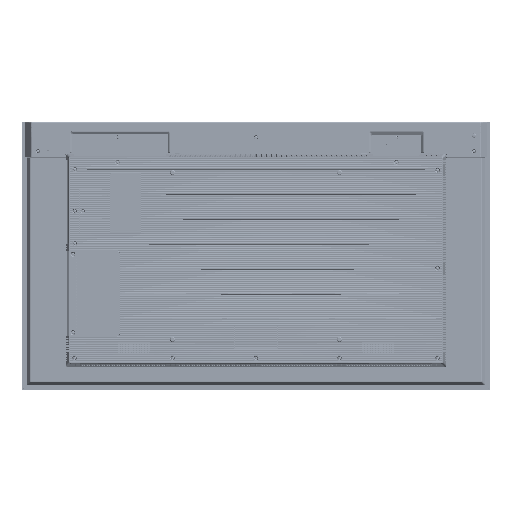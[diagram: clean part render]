
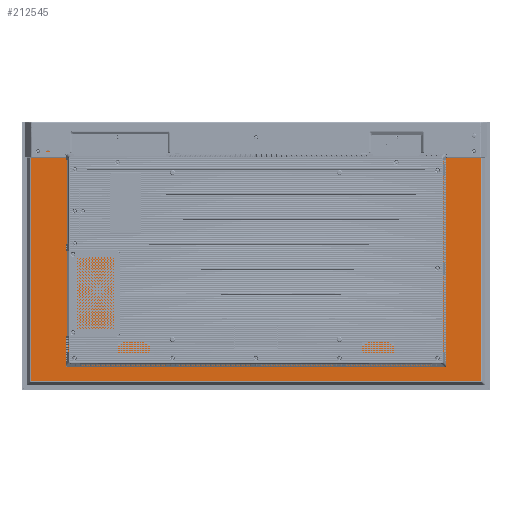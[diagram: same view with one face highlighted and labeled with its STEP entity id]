
A CAD part, front view. The second image highlights one B-rep face of the part: STEP entity #212545.
In plain terms, the highlighted planar face has unit normal (0, -1, 0).
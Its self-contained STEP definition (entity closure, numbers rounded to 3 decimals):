
#163135=ELLIPSE('',#653300,0.704,0.5);
#163136=ELLIPSE('',#653301,0.704,0.5);
#163137=ELLIPSE('',#653302,0.704,0.5);
#163138=ELLIPSE('',#653303,0.704,0.5);
#212545=ADVANCED_FACE('',(#252940,#252941),#236164,.T.);
#236164=PLANE('',#653304);
#252940=FACE_BOUND('',#257723,.T.);
#252941=FACE_BOUND('',#257724,.T.);
#257723=EDGE_LOOP('',(#290315,#290316,#290317,#290318,#290319,#290320));
#257724=EDGE_LOOP('',(#290321,#290322,#290323,#290324,#290325,#290326,#290327,
#290328));
#290315=ORIENTED_EDGE('',*,*,#476931,.T.);
#290316=ORIENTED_EDGE('',*,*,#476932,.F.);
#290317=ORIENTED_EDGE('',*,*,#476933,.F.);
#290318=ORIENTED_EDGE('',*,*,#476934,.F.);
#290319=ORIENTED_EDGE('',*,*,#476935,.T.);
#290320=ORIENTED_EDGE('',*,*,#476936,.F.);
#290321=ORIENTED_EDGE('',*,*,#476937,.T.);
#290322=ORIENTED_EDGE('',*,*,#476938,.T.);
#290323=ORIENTED_EDGE('',*,*,#476939,.T.);
#290324=ORIENTED_EDGE('',*,*,#476940,.T.);
#290325=ORIENTED_EDGE('',*,*,#476941,.T.);
#290326=ORIENTED_EDGE('',*,*,#476942,.T.);
#290327=ORIENTED_EDGE('',*,*,#476943,.T.);
#290328=ORIENTED_EDGE('',*,*,#476944,.T.);
#429624=VERTEX_POINT('',#816495);
#429625=VERTEX_POINT('',#816496);
#429626=VERTEX_POINT('',#816498);
#429627=VERTEX_POINT('',#816500);
#429628=VERTEX_POINT('',#816502);
#429629=VERTEX_POINT('',#816504);
#429630=VERTEX_POINT('',#816507);
#429631=VERTEX_POINT('',#816508);
#429632=VERTEX_POINT('',#816510);
#429633=VERTEX_POINT('',#816512);
#429634=VERTEX_POINT('',#816514);
#429635=VERTEX_POINT('',#816516);
#429636=VERTEX_POINT('',#816518);
#429637=VERTEX_POINT('',#816520);
#476931=EDGE_CURVE('',#429624,#429625,#547517,.T.);
#476932=EDGE_CURVE('',#429626,#429625,#547518,.T.);
#476933=EDGE_CURVE('',#429627,#429626,#547519,.T.);
#476934=EDGE_CURVE('',#429628,#429627,#547520,.T.);
#476935=EDGE_CURVE('',#429628,#429629,#547521,.T.);
#476936=EDGE_CURVE('',#429624,#429629,#547522,.T.);
#476937=EDGE_CURVE('',#429630,#429631,#547523,.T.);
#476938=EDGE_CURVE('',#429631,#429632,#163135,.T.);
#476939=EDGE_CURVE('',#429632,#429633,#547524,.T.);
#476940=EDGE_CURVE('',#429633,#429634,#163136,.T.);
#476941=EDGE_CURVE('',#429634,#429635,#547525,.T.);
#476942=EDGE_CURVE('',#429635,#429636,#163137,.T.);
#476943=EDGE_CURVE('',#429636,#429637,#547526,.T.);
#476944=EDGE_CURVE('',#429637,#429630,#163138,.T.);
#547517=LINE('',#816494,#600839);
#547518=LINE('',#816497,#600840);
#547519=LINE('',#816499,#600841);
#547520=LINE('',#816501,#600842);
#547521=LINE('',#816503,#600843);
#547522=LINE('',#816505,#600844);
#547523=LINE('',#816506,#600845);
#547524=LINE('',#816511,#600846);
#547525=LINE('',#816515,#600847);
#547526=LINE('',#816519,#600848);
#600839=VECTOR('',#690749,1.);
#600840=VECTOR('',#690750,1.);
#600841=VECTOR('',#690751,1.);
#600842=VECTOR('',#690752,1.);
#600843=VECTOR('',#690753,1.);
#600844=VECTOR('',#690754,1.);
#600845=VECTOR('',#690755,1.);
#600846=VECTOR('',#690758,1.);
#600847=VECTOR('',#690761,1.);
#600848=VECTOR('',#690764,1.);
#653300=AXIS2_PLACEMENT_3D('',#816509,#690756,#690757);
#653301=AXIS2_PLACEMENT_3D('',#816513,#690759,#690760);
#653302=AXIS2_PLACEMENT_3D('',#816517,#690762,#690763);
#653303=AXIS2_PLACEMENT_3D('',#816521,#690765,#690766);
#653304=AXIS2_PLACEMENT_3D('',#816522,#690767,#690768);
#690749=DIRECTION('',(0.,0.,1.));
#690750=DIRECTION('',(-1.,0.,0.));
#690751=DIRECTION('',(0.,0.,1.));
#690752=DIRECTION('',(-1.,0.,0.));
#690753=DIRECTION('',(0.,0.,-1.));
#690754=DIRECTION('',(1.,0.,0.));
#690755=DIRECTION('',(1.,0.,0.));
#690756=DIRECTION('',(0.,-1.,0.));
#690757=DIRECTION('',(-0.707,0.,0.707));
#690758=DIRECTION('',(0.,0.,1.));
#690759=DIRECTION('',(0.,-1.,0.));
#690760=DIRECTION('',(-0.707,0.,-0.707));
#690761=DIRECTION('',(-1.,0.,0.));
#690762=DIRECTION('',(0.,-1.,0.));
#690763=DIRECTION('',(0.707,0.,-0.707));
#690764=DIRECTION('',(0.,0.,-1.));
#690765=DIRECTION('',(0.,-1.,0.));
#690766=DIRECTION('',(0.707,0.,0.707));
#690767=DIRECTION('',(0.,-1.,0.));
#690768=DIRECTION('',(0.,0.,-1.));
#816494=CARTESIAN_POINT('',(-453.165,-18.2,-355.98));
#816495=CARTESIAN_POINT('',(-453.165,-18.2,-253.414));
#816496=CARTESIAN_POINT('',(-453.165,-18.2,205.487));
#816497=CARTESIAN_POINT('',(-556.32,-18.2,205.487));
#816498=CARTESIAN_POINT('',(-440.925,-18.2,205.487));
#816499=CARTESIAN_POINT('',(-440.925,-18.2,-355.98));
#816500=CARTESIAN_POINT('',(-440.925,-18.2,-20.505));
#816501=CARTESIAN_POINT('',(-556.32,-18.2,-20.505));
#816502=CARTESIAN_POINT('',(-428.721,-18.2,-20.505));
#816503=CARTESIAN_POINT('',(-428.721,-18.2,-355.98));
#816504=CARTESIAN_POINT('',(-428.721,-18.2,-253.414));
#816505=CARTESIAN_POINT('',(-556.32,-18.2,-253.414));
#816506=CARTESIAN_POINT('',(-556.32,-18.2,-339.816));
#816507=CARTESIAN_POINT('',(-539.746,-18.2,-339.816));
#816508=CARTESIAN_POINT('',(539.746,-18.2,-339.816));
#816509=CARTESIAN_POINT('',(539.546,-18.2,-339.206));
#816510=CARTESIAN_POINT('',(540.156,-18.2,-339.406));
#816511=CARTESIAN_POINT('',(540.156,-18.2,-355.98));
#816512=CARTESIAN_POINT('',(540.156,-18.2,260.269));
#816513=CARTESIAN_POINT('',(539.546,-18.2,260.068));
#816514=CARTESIAN_POINT('',(539.746,-18.2,260.678));
#816515=CARTESIAN_POINT('',(-556.32,-18.2,260.678));
#816516=CARTESIAN_POINT('',(-539.746,-18.2,260.678));
#816517=CARTESIAN_POINT('',(-539.546,-18.2,260.068));
#816518=CARTESIAN_POINT('',(-540.156,-18.2,260.269));
#816519=CARTESIAN_POINT('',(-540.156,-18.2,-355.98));
#816520=CARTESIAN_POINT('',(-540.156,-18.2,-339.406));
#816521=CARTESIAN_POINT('',(-539.546,-18.2,-339.206));
#816522=CARTESIAN_POINT('',(-556.32,-18.2,-355.98));
